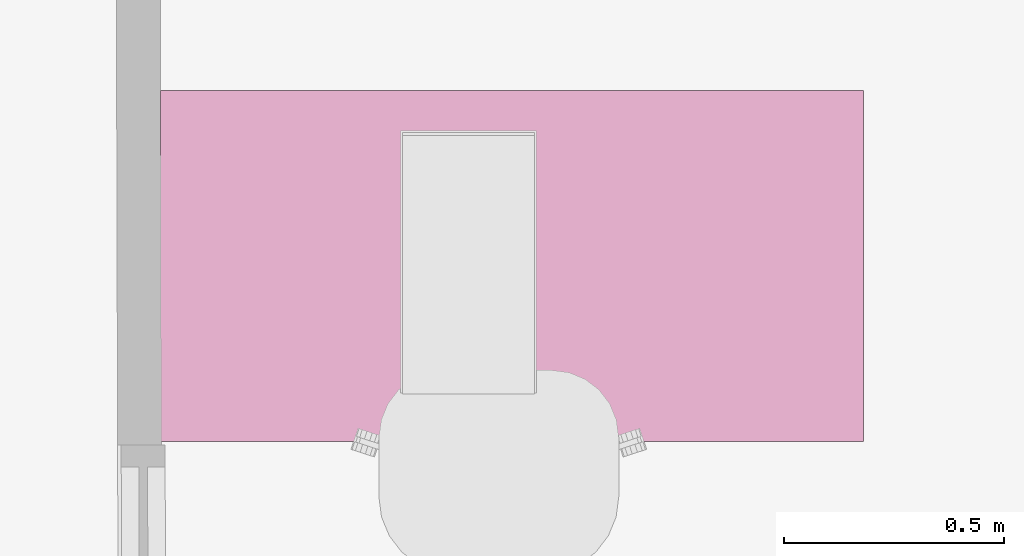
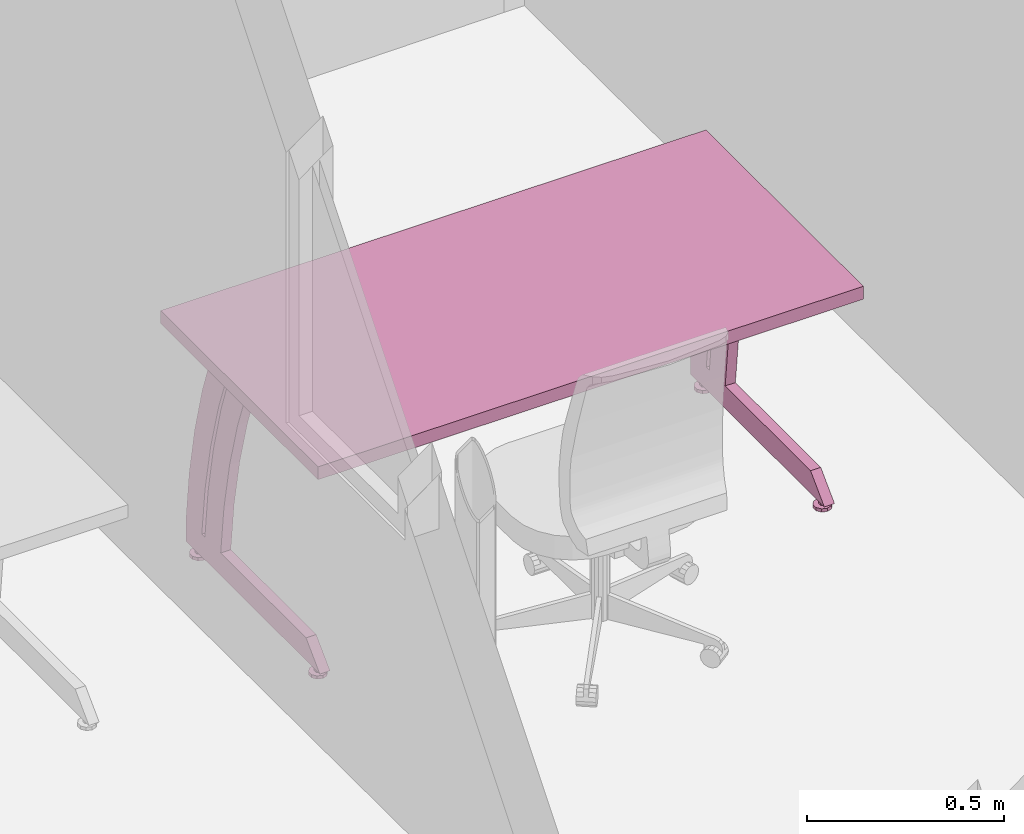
# One storey, part 87 of 128: 1 furnishing.
"""IFC2X3 building model written with IfcOpenShell, lengths in metres."""

import ifcopenshell
import ifcopenshell.guid

model = None  # the IFC model being written
_history = None  # IfcOwnerHistory: only IFC2X3 demands one
_inside = {}  # id of a spatial element -> (the spatial element, [elements in it])
_under = {}  # id of a project, library or spatial element -> (it, [spatial elements below it])
_declared = {}  # id of a project -> (the project, [libraries it declares])
_typed = {}  # id of a type object -> (the type object, [elements of that type])
_made_of = {}  # id of a material, layer set ... -> (it, [elements and type objects made of it])


def new_model(schema):
    """Start an empty IFC model of exactly this schema.

    Asked for "IFC4X3", IfcOpenShell would pick the latest addendum, in which some entities
    have other attributes; the version numbers below select the first issue.
    IFC2X3 requires an IfcOwnerHistory on every rooted entity: one is made here for all.
    """
    global model, _history
    if schema == "IFC4X3":
        model = ifcopenshell.file(schema_version=(4, 3, 0, 0))
    else:
        model = ifcopenshell.file(schema=schema)
    _inside.clear()
    _under.clear()
    _declared.clear()
    _typed.clear()
    _made_of.clear()
    _history = None
    if model.schema == "IFC2X3":
        org = make("IfcOrganization", Name="unknown")
        user = make(
            "IfcPersonAndOrganization",
            ThePerson=make("IfcPerson", FamilyName="unknown"),
            TheOrganization=org,
        )
        app = make(
            "IfcApplication",
            ApplicationDeveloper=org,
            Version="unknown",
            ApplicationFullName="unknown",
            ApplicationIdentifier="unknown",
        )
        _history = make(
            "IfcOwnerHistory",
            OwningUser=user,
            OwningApplication=app,
            ChangeAction="ADDED",
            CreationDate=0,
        )
    return model


def make(cls, **values):
    """One entity of the class cls with the attributes given. An attribute that is None is left unset."""
    return model.create_entity(
        cls, **{name: value for name, value in values.items() if value is not None}
    )


def entity(cls, *values):
    """Any entity or typed value of the class cls, its attributes in the order of the schema. None: left unset."""
    e = model.create_entity(cls)
    for i, value in enumerate(values):
        if value is not None:
            e[i] = value
    return e


def rooted(cls, **values):
    """An entity with a GlobalId (a new one), such as an element, a storey or a relation."""
    return make(cls, GlobalId=ifcopenshell.guid.new(), OwnerHistory=_history, **values)


def si_unit(unit_type, name, prefix=None):
    """IfcSIUnit, for example si_unit("LENGTHUNIT", "METRE", prefix="MILLI")."""
    return make("IfcSIUnit", UnitType=unit_type, Prefix=prefix, Name=name)


def converted_unit(unit_type, name, factor, base, dimensions=None, offset=None):
    """IfcConversionBasedUnit, such as the inch: factor (a typed value) times the base unit."""
    return make(
        "IfcConversionBasedUnit"
        if offset is None
        else "IfcConversionBasedUnitWithOffset",
        ConversionOffset=offset,
        Dimensions=None
        if dimensions is None
        else entity("IfcDimensionalExponents", *dimensions),
        UnitType=unit_type,
        Name=name,
        ConversionFactor=make(
            "IfcMeasureWithUnit", ValueComponent=factor, UnitComponent=base
        ),
    )


def derived_unit(unit_type, elements):
    """IfcDerivedUnit: a product of units, each with its exponent."""
    return make(
        "IfcDerivedUnit",
        Elements=[
            make("IfcDerivedUnitElement", Unit=unit, Exponent=power)
            for unit, power in elements
        ],
        UnitType=unit_type,
    )


def assignment(units):
    """IfcUnitAssignment: the units of a project."""
    return None if units is None else make("IfcUnitAssignment", Units=units)


def point(xyz):
    """IfcCartesianPoint."""
    return None if xyz is None else make("IfcCartesianPoint", Coordinates=xyz)


def direction(xyz):
    """IfcDirection."""
    return None if xyz is None else make("IfcDirection", DirectionRatios=xyz)


def frame(location, z_axis=None, x_axis=None):
    """IfcAxis2Placement3D, a coordinate frame: its origin and axes. An axis left out is left unset."""
    return make(
        "IfcAxis2Placement3D",
        Location=point(location),
        Axis=direction(z_axis),
        RefDirection=direction(x_axis),
    )


def origin():
    """The frame at (0, 0, 0) with its axes left unset."""
    return frame((0.0, 0.0, 0.0))


def place(relative_to, where):
    """IfcLocalPlacement: puts the frame where relative to a parent placement (None: the world)."""
    return make(
        "IfcLocalPlacement", PlacementRelTo=relative_to, RelativePlacement=where
    )


def context(
    kind, dimensions, precision=None, world=None, true_north=None, identifier=None
):
    """IfcGeometricRepresentationContext, for example the 3D "Model" context."""
    return make(
        "IfcGeometricRepresentationContext",
        ContextIdentifier=identifier,
        ContextType=kind,
        CoordinateSpaceDimension=dimensions,
        Precision=precision,
        WorldCoordinateSystem=world,
        TrueNorth=true_north,
    )


def subcontext(parent, identifier, kind, view, scale=None):
    """IfcGeometricRepresentationSubContext, for example "Body" below "Model"."""
    return make(
        "IfcGeometricRepresentationSubContext",
        ContextIdentifier=identifier,
        ContextType=kind,
        ParentContext=parent,
        TargetScale=scale,
        TargetView=view,
    )


def project(units=None, contexts=None):
    """IfcProject with its units and contexts."""
    return rooted(
        "IfcProject",
        Name="project",
        RepresentationContexts=contexts,
        UnitsInContext=assignment(units),
    )


def spatial(cls, under=None, at=None, **own):
    """A site, building, storey or space (cls), placed at a placement, below another one or the project."""
    s = rooted(cls, ObjectPlacement=at, **own)
    if under is not None:
        _under.setdefault(under.id(), (under, []))[1].append(s)
    return s


def faces_of(points, faces, orient=None, outer=None):
    """IfcFace entities. A face is a list of loops; a loop is a list of indices into points, from 0.

    orient and outer hold one flag for each loop. By default every Orientation is true, the
    first loop of a face is its IfcFaceOuterBound and the others are IfcFaceBound.
    """
    made = []
    for i, loops in enumerate(faces):
        bounds = []
        for j, loop in enumerate(loops):
            is_outer = j == 0 if outer is None else outer[i][j]
            bounds.append(
                make(
                    "IfcFaceOuterBound" if is_outer else "IfcFaceBound",
                    Bound=make("IfcPolyLoop", Polygon=[points[k] for k in loop]),
                    Orientation=True if orient is None else orient[i][j],
                )
            )
        made.append(make("IfcFace", Bounds=bounds))
    return made


def faceted_brep(points, faces, orient=None, outer=None, voids=None):
    """IfcFacetedBrep: a solid bounded by flat faces; with voids (closed shells), ...WithVoids."""
    shared = [point(p) for p in points]
    hull = make("IfcClosedShell", CfsFaces=faces_of(shared, faces, orient, outer))
    if voids is None:
        return make("IfcFacetedBrep", Outer=hull)
    return make(
        "IfcFacetedBrepWithVoids",
        Outer=hull,
        Voids=[
            make(cls, CfsFaces=faces_of(shared, fs, o, b)) for cls, fs, o, b in voids
        ],
    )


def shape(context_of_items, identifier, shape_type, items):
    """IfcShapeRepresentation: the items that make up one representation, for example the "Body"."""
    return make(
        "IfcShapeRepresentation",
        ContextOfItems=context_of_items,
        RepresentationIdentifier=identifier,
        RepresentationType=shape_type,
        Items=items,
    )


def source(mapping_origin, context_of_items, identifier, shape_type, items):
    """IfcRepresentationMap: a shape defined once, which mapped items show again and again."""
    return make(
        "IfcRepresentationMap",
        MappingOrigin=mapping_origin,
        MappedRepresentation=shape(context_of_items, identifier, shape_type, items),
    )


def transform(
    local_origin,
    x_axis=None,
    y_axis=None,
    z_axis=None,
    scale=None,
    scale2=None,
    scale3=None,
    uniform=True,
):
    """IfcCartesianTransformationOperator3D, or its non-uniform kind. x_axis, y_axis, z_axis: its Axis1, 2, 3."""
    if uniform:
        return make(
            "IfcCartesianTransformationOperator3D",
            Axis1=direction(x_axis),
            Axis2=direction(y_axis),
            LocalOrigin=point(local_origin),
            Scale=scale,
            Axis3=direction(z_axis),
        )
    return make(
        "IfcCartesianTransformationOperator3DnonUniform",
        Axis1=direction(x_axis),
        Axis2=direction(y_axis),
        LocalOrigin=point(local_origin),
        Scale=scale,
        Axis3=direction(z_axis),
        Scale2=scale2,
        Scale3=scale3,
    )


def mapped(mapping_source, mapping_target):
    """IfcMappedItem: shows the shape of a source again, moved by a transform."""
    return make(
        "IfcMappedItem", MappingSource=mapping_source, MappingTarget=mapping_target
    )


def material(Name=None, Category=None):
    """IfcMaterial."""
    return make("IfcMaterial", Name=Name, Category=Category)


def made_of(thing, what):
    """Note that an element or type object is made of a material, layer set ...; save() writes the relation."""
    if what is not None:
        _made_of.setdefault(what.id(), (what, []))[1].append(thing)
    return thing


def type_object(cls, material=None, **own):
    """A type object (cls), such as IfcWallType, which elements share."""
    return made_of(rooted(cls, **own), material)


def type_shapes(of_type, sources):
    """Give a type object the sources (RepresentationMaps) that its elements show as mapped items."""
    of_type.RepresentationMaps = sources


def element(
    cls,
    number,
    at=None,
    inside=None,
    cuts=None,
    type_object=None,
    material=None,
    context=None,
    identifier="Body",
    shape_type=None,
    held_by="IfcProductDefinitionShape",
    body=None,
    shapes=None,
    **own,
):
    """One element of the class cls, such as IfcWall. Its Tag is "e" and its number.

    at: its placement. inside: the storey or other place that contains it. cuts: it is an
    opening in that element (IfcRelVoidsElement). A single representation is given by context,
    identifier, shape_type and body (its items); several are given by shapes. held_by: the class
    of the entity that holds the representations. save() writes the other relations.
    """
    e = rooted(cls, Tag="e%d" % number, ObjectPlacement=at, **own)
    if body is not None:
        shapes = [shape(context, identifier, shape_type, body)]
    if shapes is not None:
        e.Representation = make(held_by, Representations=shapes)
    if inside is not None:
        _inside.setdefault(inside.id(), (inside, []))[1].append(e)
    if cuts is not None:
        rooted(
            "IfcRelVoidsElement", RelatingBuildingElement=cuts, RelatedOpeningElement=e
        )
    if type_object is not None:
        _typed.setdefault(type_object.id(), (type_object, []))[1].append(e)
    return made_of(e, material)


def aggregate(whole, parts):
    """IfcRelAggregates: a whole, such as a stair, and the parts it consists of."""
    return rooted("IfcRelAggregates", RelatingObject=whole, RelatedObjects=parts)


def save(model, path):
    """Write the relations noted so far, then the file.

    IfcRelAggregates (storeys below a building ...), IfcRelContainedInSpatialStructure (elements
    in a storey), IfcRelDefinesByType, IfcRelAssociatesMaterial and IfcRelDeclares: one each for
    every whole, place, type object, material and project.
    """
    for whole, parts in _under.values():
        aggregate(whole, parts)
    for where, things in _inside.values():
        rooted(
            "IfcRelContainedInSpatialStructure",
            RelatedElements=things,
            RelatingStructure=where,
        )
    for kind, things in _typed.values():
        rooted("IfcRelDefinesByType", RelatedObjects=things, RelatingType=kind)
    for what, things in _made_of.values():
        rooted("IfcRelAssociatesMaterial", RelatedObjects=things, RelatingMaterial=what)
    for by, libraries in _declared.values():
        rooted("IfcRelDeclares", RelatingContext=by, RelatedDefinitions=libraries)
    model.write(path)


model = new_model("IFC2X3")

# Units and contexts
model_context = context("Model", 3, precision=1e-05, world=origin(), true_north=direction((6.123031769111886e-17, 1.0)))
body_context = subcontext(model_context, "Body", "Model", "MODEL_VIEW")
ifc_project = project(units=[si_unit("LENGTHUNIT", "METRE"), si_unit("AREAUNIT", "SQUARE_METRE"), converted_unit("PLANEANGLEUNIT", "DEGREE", entity("IfcPlaneAngleMeasure", 0.017453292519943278), si_unit("PLANEANGLEUNIT", "RADIAN"), dimensions=[0, 0, 0, 0, 0, 0, 0]), derived_unit("THERMALTRANSMITTANCEUNIT", [(si_unit("MASSUNIT", "GRAM", prefix="KILO"), 1), (si_unit("THERMODYNAMICTEMPERATUREUNIT", "KELVIN"), -1), (si_unit("TIMEUNIT", "SECOND"), -3)])], contexts=[model_context])

# Site, building, storey
site_placement = place(None, origin())
site = spatial("IfcSite", under=ifc_project, at=site_placement, Name="Default", CompositionType="ELEMENT")
building_placement = place(site_placement, origin())
building = spatial("IfcBuilding", under=site, at=building_placement, CompositionType="ELEMENT")
storey_placement = place(building_placement, origin())
storey = spatial("IfcBuildingStorey", under=building, at=storey_placement, Name="00_RDC CAF", CompositionType="ELEMENT", Elevation=2.4982504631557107e-13)

# Furnishing
ifc_material = material(Name="ARC - Mo - Blanc")
furniture_type = type_object("IfcFurnitureType", Name="Mo_Bureau:Mo_Bureau_1600x800mm", AssemblyPlace="NOTDEFINED", material=ifc_material)
shared_shape = source(origin(), body_context, "Body", "Brep", [
    faceted_brep([(0.05999999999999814, -0.6962325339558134, 0.0), (0.03622358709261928, -0.6885071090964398, 0.0), (0.04076447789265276, -0.6822571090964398, 0.0), (0.04530536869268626, -0.6760071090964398, 0.0), (0.05265268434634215, -0.6736198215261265, 0.0), (0.059999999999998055, -0.6712325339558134, 0.0), (0.06734731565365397, -0.6736198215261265, 0.0), (0.03622358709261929, -0.6962325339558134, 0.0), (0.03622358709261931, -0.7039579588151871, 0.0), (0.04076447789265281, -0.7102079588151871, 0.0), (0.045305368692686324, -0.7164579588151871, 0.0), (0.05265268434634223, -0.7188452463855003, 0.0), (0.05999999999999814, -0.7212325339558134, 0.0), (0.07469463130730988, -0.6760071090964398, 0.0), (0.07923552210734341, -0.6822571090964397, 0.0), (0.08377641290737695, -0.6885071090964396, 0.0), (0.08377641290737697, -0.6962325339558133, 0.0), (0.0673473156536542, -0.7188452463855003, 0.0), (0.07469463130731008, -0.716457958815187, 0.0), (0.07923552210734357, -0.7102079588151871, 0.0), (0.08377641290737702, -0.703957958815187, 0.0), (0.05999999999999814, -0.6962325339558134, 0.024999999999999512), (0.0599999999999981, -0.6862325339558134, 0.024999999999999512), (0.05133974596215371, -0.6912325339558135, 0.024999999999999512), (0.05133974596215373, -0.7012325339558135, 0.024999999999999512), (0.05999999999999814, -0.7062325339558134, 0.024999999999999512), (0.06866025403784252, -0.6912325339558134, 0.024999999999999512), (0.06866025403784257, -0.7012325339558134, 0.024999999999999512), (0.05133974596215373, -0.7012325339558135, 0.010000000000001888), (0.05999999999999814, -0.7062325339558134, 0.010000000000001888), (0.05133974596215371, -0.6912325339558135, 0.010000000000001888), (0.05999999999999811, -0.6862325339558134, 0.010000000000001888), (0.06866025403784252, -0.6912325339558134, 0.010000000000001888), (0.06866025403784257, -0.7012325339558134, 0.010000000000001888), (0.05999999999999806, -0.6712325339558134, 0.010000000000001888), (0.0555460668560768, -0.6726797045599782, 0.010000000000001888), (0.051092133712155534, -0.6741268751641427, 0.010000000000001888), (0.04530536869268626, -0.6760071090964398, 0.010000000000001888), (0.06734731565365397, -0.6736198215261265, 0.010000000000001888), (0.07469463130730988, -0.6760071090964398, 0.010000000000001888), (0.07923552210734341, -0.6822571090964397, 0.010000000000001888), (0.08377641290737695, -0.6885071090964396, 0.010000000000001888), (0.08377641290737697, -0.6962325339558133, 0.010000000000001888), (0.08377641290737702, -0.703957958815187, 0.010000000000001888), (0.07923552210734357, -0.7102079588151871, 0.010000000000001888), (0.07469463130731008, -0.716457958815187, 0.010000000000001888), (0.06890786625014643, -0.7183381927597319, 0.010000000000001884), (0.06445393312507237, -0.7197853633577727, 0.010000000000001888), (0.05999999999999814, -0.7212325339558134, 0.010000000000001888), (0.05265268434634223, -0.7188452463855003, 0.010000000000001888), (0.045305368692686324, -0.7164579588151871, 0.010000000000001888), (0.03622358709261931, -0.7039579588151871, 0.010000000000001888), (0.04076447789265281, -0.7102079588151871, 0.010000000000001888), (0.04076447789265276, -0.6822571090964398, 0.010000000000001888), (0.03622358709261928, -0.6885071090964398, 0.010000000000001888), (0.03622358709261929, -0.6962325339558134, 0.010000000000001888)], [[[0, 1, 2]], [[0, 2, 3]], [[0, 3, 4]], [[0, 4, 5]], [[0, 5, 6]], [[0, 7, 1]], [[0, 8, 7]], [[0, 9, 8]], [[0, 10, 9]], [[0, 11, 10]], [[0, 12, 11]], [[0, 6, 13]], [[0, 13, 14]], [[0, 14, 15]], [[0, 15, 16]], [[0, 17, 12]], [[0, 18, 17]], [[0, 19, 18]], [[0, 20, 19]], [[0, 16, 20]], [[21, 22, 23]], [[23, 24, 21]], [[24, 25, 21]], [[21, 26, 22]], [[25, 27, 21]], [[26, 21, 27]], [[25, 24, 28, 29]], [[24, 23, 30, 28]], [[23, 22, 31, 30]], [[22, 26, 32, 31]], [[26, 27, 33, 32]], [[27, 25, 29, 33]], [[31, 34, 35]], [[31, 35, 36]], [[31, 36, 37]], [[31, 37, 30]], [[31, 38, 34]], [[31, 39, 38]], [[32, 39, 31]], [[32, 40, 39]], [[32, 41, 40]], [[32, 42, 41]], [[32, 43, 42]], [[32, 33, 43]], [[33, 44, 43]], [[33, 45, 44]], [[33, 29, 45]], [[29, 46, 45]], [[29, 47, 46]], [[29, 48, 47]], [[29, 49, 48]], [[29, 50, 49]], [[29, 28, 50]], [[30, 51, 28]], [[28, 51, 52]], [[28, 52, 50]], [[30, 37, 53]], [[30, 53, 54]], [[30, 54, 55]], [[30, 55, 51]], [[11, 12, 48, 49, 50, 10]], [[8, 9, 10, 50, 52, 51]], [[7, 8, 51, 55, 54, 1]], [[3, 37, 36, 35, 34, 5, 4]], [[54, 53, 37, 3, 2, 1]], [[6, 5, 34, 38, 39, 13]], [[15, 14, 13, 39, 40, 41]], [[16, 15, 41, 42, 43, 20]], [[18, 45, 46, 47, 48, 12, 17]], [[43, 44, 45, 18, 19, 20]]]),
    faceted_brep([(0.05999999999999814, -0.09132706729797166, 0.0), (0.03622358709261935, -0.08360164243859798, 0.0), (0.04076447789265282, -0.07735164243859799, 0.0), (0.0453053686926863, -0.07110164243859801, 0.0), (0.05265268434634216, -0.06871435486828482, 0.0), (0.059999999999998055, -0.06632706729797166, 0.0), (0.06734731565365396, -0.06871435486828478, 0.0), (0.03622358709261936, -0.09132706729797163, 0.0), (0.03622358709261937, -0.09905249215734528, 0.0), (0.04076447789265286, -0.10530249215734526, 0.0), (0.04530536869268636, -0.11155249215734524, 0.0), (0.05265268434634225, -0.11393977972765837, 0.0), (0.05999999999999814, -0.11632706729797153, 0.0), (0.07469463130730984, -0.0711016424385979, 0.0), (0.07923552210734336, -0.07735164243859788, 0.0), (0.08377641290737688, -0.08360164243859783, 0.0), (0.0837764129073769, -0.09132706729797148, 0.0), (0.06734731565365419, -0.11393977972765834, 0.0), (0.07469463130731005, -0.11155249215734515, 0.0), (0.07923552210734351, -0.10530249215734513, 0.0), (0.08377641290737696, -0.09905249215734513, 0.0), (0.05999999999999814, -0.09132706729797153, 0.024999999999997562), (0.0599999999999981, -0.08132706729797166, 0.024999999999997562), (0.05133974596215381, -0.08632706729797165, 0.024999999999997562), (0.05133974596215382, -0.09632706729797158, 0.024999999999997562), (0.05999999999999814, -0.10132706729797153, 0.024999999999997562), (0.06866025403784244, -0.0863270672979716, 0.024999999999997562), (0.06866025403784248, -0.09632706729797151, 0.024999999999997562), (0.05133974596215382, -0.09632706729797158, 0.009999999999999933), (0.05999999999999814, -0.10132706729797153, 0.009999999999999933), (0.05133974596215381, -0.08632706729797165, 0.009999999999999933), (0.05999999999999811, -0.08132706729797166, 0.009999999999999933), (0.06866025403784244, -0.0863270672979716, 0.009999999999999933), (0.06866025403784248, -0.09632706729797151, 0.009999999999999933), (0.05999999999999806, -0.06632706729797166, 0.009999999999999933), (0.055546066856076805, -0.06777423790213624, 0.00999999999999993), (0.051092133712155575, -0.06922140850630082, 0.00999999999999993), (0.0453053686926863, -0.07110164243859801, 0.009999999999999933), (0.06734731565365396, -0.06871435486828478, 0.00999999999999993), (0.07469463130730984, -0.0711016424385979, 0.009999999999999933), (0.07923552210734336, -0.07735164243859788, 0.00999999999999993), (0.08377641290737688, -0.08360164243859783, 0.009999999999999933), (0.0837764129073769, -0.09132706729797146, 0.00999999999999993), (0.08377641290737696, -0.09905249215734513, 0.009999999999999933), (0.07923552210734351, -0.10530249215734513, 0.00999999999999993), (0.07469463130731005, -0.11155249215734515, 0.009999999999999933), (0.0689078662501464, -0.11343272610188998, 0.00999999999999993), (0.06445393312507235, -0.11487989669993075, 0.00999999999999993), (0.05999999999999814, -0.11632706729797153, 0.009999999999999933), (0.05265268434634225, -0.11393977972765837, 0.00999999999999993), (0.04530536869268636, -0.11155249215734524, 0.009999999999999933), (0.03622358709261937, -0.09905249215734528, 0.009999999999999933), (0.04076447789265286, -0.10530249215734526, 0.00999999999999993), (0.04076447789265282, -0.07735164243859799, 0.00999999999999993), (0.03622358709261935, -0.08360164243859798, 0.009999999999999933), (0.03622358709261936, -0.09132706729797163, 0.00999999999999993)], [[[0, 1, 2]], [[0, 2, 3]], [[0, 3, 4]], [[0, 4, 5]], [[0, 5, 6]], [[0, 7, 1]], [[0, 8, 7]], [[0, 9, 8]], [[0, 10, 9]], [[0, 11, 10]], [[0, 12, 11]], [[0, 6, 13]], [[0, 13, 14]], [[0, 14, 15]], [[0, 15, 16]], [[0, 17, 12]], [[0, 18, 17]], [[0, 19, 18]], [[0, 20, 19]], [[0, 16, 20]], [[21, 22, 23]], [[23, 24, 21]], [[24, 25, 21]], [[21, 26, 22]], [[25, 27, 21]], [[26, 21, 27]], [[25, 24, 28, 29]], [[24, 23, 30, 28]], [[23, 22, 31, 30]], [[22, 26, 32, 31]], [[26, 27, 33, 32]], [[27, 25, 29, 33]], [[31, 34, 35]], [[31, 35, 36]], [[31, 36, 37]], [[31, 37, 30]], [[31, 38, 34]], [[31, 39, 38]], [[32, 39, 31]], [[32, 40, 39]], [[32, 41, 40]], [[32, 42, 41]], [[32, 43, 42]], [[32, 33, 43]], [[33, 44, 43]], [[33, 45, 44]], [[33, 29, 45]], [[29, 46, 45]], [[29, 47, 46]], [[29, 48, 47]], [[29, 49, 48]], [[29, 50, 49]], [[29, 28, 50]], [[30, 51, 28]], [[28, 51, 52]], [[28, 52, 50]], [[30, 37, 53]], [[30, 53, 54]], [[30, 54, 55]], [[30, 55, 51]], [[11, 12, 48, 49, 50, 10]], [[8, 9, 10, 50, 52, 51]], [[7, 8, 51, 55, 54, 1]], [[3, 37, 36, 35, 34, 5, 4]], [[54, 53, 37, 3, 2, 1]], [[6, 5, 34, 38, 39, 13]], [[15, 14, 13, 39, 40, 41]], [[16, 15, 41, 42, 43, 20]], [[18, 45, 46, 47, 48, 12, 17]], [[43, 44, 45, 18, 19, 20]]]),
    faceted_brep([(0.04499999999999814, -0.22742160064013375, 0.09500000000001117), (0.04499999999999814, -0.24409269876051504, 0.24614112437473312), (0.04499999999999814, -0.2727144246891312, 0.3954808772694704), (0.04499999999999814, -0.313105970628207, 0.542075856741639), (0.04499999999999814, -0.36501217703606, 0.684999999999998), (0.04499999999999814, -0.27887211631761, 0.6849999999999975), (0.04499999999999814, -0.22919246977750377, 0.5416912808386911), (0.04499999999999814, -0.19055436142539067, 0.39501969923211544), (0.04499999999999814, -0.1631815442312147, 0.24583462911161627), (0.04499999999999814, -0.14723253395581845, 0.09500000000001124), (0.07499999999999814, -0.3650121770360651, 0.6850000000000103), (0.07499999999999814, -0.313105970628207, 0.542075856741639), (0.07499999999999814, -0.2727144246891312, 0.3954808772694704), (0.07499999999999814, -0.24409269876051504, 0.24614112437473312), (0.07499999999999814, -0.22742160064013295, 0.09499999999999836), (0.07499999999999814, -0.14723253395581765, 0.09499999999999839), (0.07499999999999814, -0.1631815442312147, 0.24583462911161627), (0.07499999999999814, -0.19055436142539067, 0.39501969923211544), (0.07499999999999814, -0.22919246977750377, 0.5416912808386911), (0.07499999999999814, -0.2788721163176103, 0.684999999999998)], [[[0, 1, 2, 3, 4, 5, 6, 7, 8, 9]], [[10, 11, 12, 13, 14, 15, 16, 17, 18, 19]], [[10, 19, 5, 4]], [[3, 11, 10, 4]], [[2, 12, 11, 3]], [[0, 14, 13, 1]], [[12, 2, 1, 13]], [[15, 14, 0, 9]], [[8, 7, 17, 16]], [[15, 9, 8, 16]], [[6, 5, 19, 18]], [[6, 18, 17, 7]]]),
    faceted_brep([(0.04499999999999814, -0.1314216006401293, 0.09500000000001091), (0.04499999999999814, -0.1480926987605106, 0.24614112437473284), (0.04499999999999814, -0.17671442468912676, 0.3954808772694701), (0.04499999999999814, -0.21710597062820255, 0.5420758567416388), (0.04499999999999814, -0.2690121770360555, 0.6849999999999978), (0.04499999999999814, -0.18287211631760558, 0.6849999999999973), (0.04499999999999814, -0.13319246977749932, 0.5416912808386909), (0.04499999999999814, -0.09455436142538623, 0.39501969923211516), (0.04499999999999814, -0.06718154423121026, 0.24583462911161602), (0.04499999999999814, -0.05123253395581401, 0.09500000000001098), (0.07499999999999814, -0.2690121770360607, 0.6850000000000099), (0.07499999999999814, -0.21710597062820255, 0.5420758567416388), (0.07499999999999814, -0.17671442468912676, 0.3954808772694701), (0.07499999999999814, -0.1480926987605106, 0.24614112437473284), (0.07499999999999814, -0.1314216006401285, 0.09499999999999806), (0.07499999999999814, -0.051232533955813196, 0.09499999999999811), (0.07499999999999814, -0.06718154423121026, 0.24583462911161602), (0.07499999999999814, -0.09455436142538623, 0.39501969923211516), (0.07499999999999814, -0.13319246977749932, 0.5416912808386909), (0.07499999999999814, -0.18287211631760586, 0.6849999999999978)], [[[0, 1, 2, 3, 4, 5, 6, 7, 8, 9]], [[10, 11, 12, 13, 14, 15, 16, 17, 18, 19]], [[10, 19, 5, 4]], [[3, 11, 10, 4]], [[2, 12, 11, 3]], [[0, 14, 13, 1]], [[12, 2, 1, 13]], [[15, 14, 0, 9]], [[8, 7, 17, 16]], [[15, 9, 8, 16]], [[6, 5, 19, 18]], [[6, 18, 17, 7]]]),
    faceted_brep([(0.04499999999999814, -0.05123253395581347, 0.024999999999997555), (0.04499999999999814, -0.7312325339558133, 0.024999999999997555), (0.04499999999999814, -0.6612325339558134, 0.09499999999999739), (0.04499999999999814, -0.05123253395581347, 0.09499999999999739), (0.07499999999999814, -0.05123253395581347, 0.024999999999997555), (0.07499999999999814, -0.05123253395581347, 0.09499999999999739), (0.07499999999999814, -0.6612325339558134, 0.09499999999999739), (0.07499999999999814, -0.7312325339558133, 0.024999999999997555)], [[[0, 1, 2, 3]], [[4, 5, 6, 7]], [[5, 4, 0, 3]], [[6, 5, 3, 2]], [[4, 7, 1, 0]], [[7, 6, 2, 1]]]),
    faceted_brep([(1.5399999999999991, -0.6962325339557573, 0.0), (1.5162235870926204, -0.6885071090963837, 0.0), (1.5207644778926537, -0.6822571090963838, 0.0), (1.5253053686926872, -0.6760071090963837, 0.0), (1.532652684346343, -0.6736198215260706, 0.0), (1.5399999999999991, -0.6712325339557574, 0.0), (1.547347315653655, -0.6736198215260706, 0.0), (1.5162235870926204, -0.6962325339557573, 0.0), (1.5162235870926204, -0.7039579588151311, 0.0), (1.5207644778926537, -0.710207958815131, 0.0), (1.5253053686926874, -0.7164579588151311, 0.0), (1.5326526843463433, -0.7188452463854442, 0.0), (1.5399999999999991, -0.7212325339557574, 0.0), (1.554694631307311, -0.6760071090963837, 0.0), (1.5592355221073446, -0.6822571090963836, 0.0), (1.563776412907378, -0.6885071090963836, 0.0), (1.563776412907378, -0.6962325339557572, 0.0), (1.5473473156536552, -0.7188452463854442, 0.0), (1.5546946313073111, -0.716457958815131, 0.0), (1.5592355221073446, -0.710207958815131, 0.0), (1.563776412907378, -0.7039579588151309, 0.0), (1.5399999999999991, -0.6962325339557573, 0.024999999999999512), (1.5399999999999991, -0.6862325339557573, 0.024999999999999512), (1.5313397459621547, -0.6912325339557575, 0.024999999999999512), (1.5313397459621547, -0.7012325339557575, 0.024999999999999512), (1.5399999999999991, -0.7062325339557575, 0.024999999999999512), (1.5486602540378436, -0.6912325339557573, 0.024999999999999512), (1.5486602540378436, -0.7012325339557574, 0.024999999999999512), (1.5313397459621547, -0.7012325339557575, 0.010000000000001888), (1.5399999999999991, -0.7062325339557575, 0.010000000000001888), (1.5313397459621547, -0.6912325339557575, 0.010000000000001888), (1.5399999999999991, -0.6862325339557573, 0.010000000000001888), (1.5486602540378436, -0.6912325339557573, 0.010000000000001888), (1.5486602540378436, -0.7012325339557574, 0.010000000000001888), (1.5399999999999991, -0.6712325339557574, 0.010000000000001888), (1.5355460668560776, -0.672679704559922, 0.010000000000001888), (1.5310921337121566, -0.6741268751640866, 0.010000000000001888), (1.5253053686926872, -0.6760071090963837, 0.010000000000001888), (1.547347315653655, -0.6736198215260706, 0.010000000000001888), (1.554694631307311, -0.6760071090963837, 0.010000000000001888), (1.5592355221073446, -0.6822571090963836, 0.010000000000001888), (1.563776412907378, -0.6885071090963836, 0.010000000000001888), (1.563776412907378, -0.6962325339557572, 0.010000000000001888), (1.563776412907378, -0.7039579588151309, 0.010000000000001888), (1.5592355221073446, -0.710207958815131, 0.010000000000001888), (1.5546946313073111, -0.716457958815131, 0.010000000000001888), (1.5489078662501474, -0.7183381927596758, 0.010000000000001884), (1.5444539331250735, -0.7197853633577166, 0.010000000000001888), (1.5399999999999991, -0.7212325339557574, 0.010000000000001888), (1.5326526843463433, -0.7188452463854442, 0.010000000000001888), (1.5253053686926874, -0.7164579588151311, 0.010000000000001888), (1.5162235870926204, -0.7039579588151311, 0.010000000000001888), (1.5207644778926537, -0.710207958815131, 0.010000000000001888), (1.5207644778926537, -0.6822571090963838, 0.010000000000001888), (1.5162235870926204, -0.6885071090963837, 0.010000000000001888), (1.5162235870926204, -0.6962325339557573, 0.010000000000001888)], [[[0, 1, 2]], [[0, 2, 3]], [[0, 3, 4]], [[0, 4, 5]], [[0, 5, 6]], [[0, 7, 1]], [[0, 8, 7]], [[0, 9, 8]], [[0, 10, 9]], [[0, 11, 10]], [[0, 12, 11]], [[0, 6, 13]], [[0, 13, 14]], [[0, 14, 15]], [[0, 15, 16]], [[0, 17, 12]], [[0, 18, 17]], [[0, 19, 18]], [[0, 20, 19]], [[0, 16, 20]], [[21, 22, 23]], [[23, 24, 21]], [[24, 25, 21]], [[21, 26, 22]], [[25, 27, 21]], [[26, 21, 27]], [[25, 24, 28, 29]], [[24, 23, 30, 28]], [[23, 22, 31, 30]], [[22, 26, 32, 31]], [[26, 27, 33, 32]], [[27, 25, 29, 33]], [[31, 34, 35]], [[31, 35, 36]], [[31, 36, 37]], [[31, 37, 30]], [[31, 38, 34]], [[31, 39, 38]], [[32, 39, 31]], [[32, 40, 39]], [[32, 41, 40]], [[32, 42, 41]], [[32, 43, 42]], [[32, 33, 43]], [[33, 44, 43]], [[33, 45, 44]], [[33, 29, 45]], [[29, 46, 45]], [[29, 47, 46]], [[29, 48, 47]], [[29, 49, 48]], [[29, 50, 49]], [[29, 28, 50]], [[30, 51, 28]], [[28, 51, 52]], [[28, 52, 50]], [[30, 37, 53]], [[30, 53, 54]], [[30, 54, 55]], [[30, 55, 51]], [[11, 12, 48, 49, 50, 10]], [[8, 9, 10, 50, 52, 51]], [[7, 8, 51, 55, 54, 1]], [[3, 37, 36, 35, 34, 5, 4]], [[54, 53, 37, 3, 2, 1]], [[6, 5, 34, 38, 39, 13]], [[15, 14, 13, 39, 40, 41]], [[16, 15, 41, 42, 43, 20]], [[18, 45, 46, 47, 48, 12, 17]], [[43, 44, 45, 18, 19, 20]]]),
    faceted_brep([(1.5399999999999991, -0.09132706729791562, 0.0), (1.5162235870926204, -0.08360164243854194, 0.0), (1.5207644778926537, -0.07735164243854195, 0.0), (1.5253053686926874, -0.07110164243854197, 0.0), (1.5326526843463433, -0.06871435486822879, 0.0), (1.5399999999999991, -0.06632706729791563, 0.0), (1.547347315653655, -0.06871435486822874, 0.0), (1.5162235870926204, -0.09132706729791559, 0.0), (1.5162235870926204, -0.09905249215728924, 0.0), (1.5207644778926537, -0.10530249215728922, 0.0), (1.5253053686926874, -0.1115524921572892, 0.0), (1.5326526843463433, -0.11393977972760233, 0.0), (1.5399999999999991, -0.11632706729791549, 0.0), (1.554694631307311, -0.07110164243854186, 0.0), (1.5592355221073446, -0.07735164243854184, 0.0), (1.563776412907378, -0.08360164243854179, 0.0), (1.563776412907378, -0.09132706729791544, 0.0), (1.5473473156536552, -0.1139397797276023, 0.0), (1.5546946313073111, -0.11155249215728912, 0.0), (1.5592355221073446, -0.1053024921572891, 0.0), (1.563776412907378, -0.09905249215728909, 0.0), (1.5399999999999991, -0.0913270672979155, 0.024999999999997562), (1.5399999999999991, -0.08132706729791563, 0.024999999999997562), (1.531339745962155, -0.08632706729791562, 0.024999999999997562), (1.531339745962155, -0.09632706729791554, 0.024999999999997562), (1.5399999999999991, -0.10132706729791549, 0.024999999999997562), (1.5486602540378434, -0.08632706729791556, 0.024999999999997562), (1.5486602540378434, -0.09632706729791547, 0.024999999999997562), (1.531339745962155, -0.09632706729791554, 0.009999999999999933), (1.5399999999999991, -0.10132706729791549, 0.009999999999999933), (1.531339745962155, -0.08632706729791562, 0.009999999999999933), (1.5399999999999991, -0.08132706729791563, 0.009999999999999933), (1.5486602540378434, -0.08632706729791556, 0.009999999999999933), (1.5486602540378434, -0.09632706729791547, 0.009999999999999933), (1.5399999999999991, -0.06632706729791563, 0.009999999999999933), (1.5355460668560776, -0.0677742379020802, 0.00999999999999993), (1.5310921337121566, -0.06922140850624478, 0.00999999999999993), (1.5253053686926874, -0.07110164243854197, 0.009999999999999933), (1.547347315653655, -0.06871435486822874, 0.00999999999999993), (1.554694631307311, -0.07110164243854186, 0.009999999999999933), (1.5592355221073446, -0.07735164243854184, 0.00999999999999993), (1.563776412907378, -0.08360164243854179, 0.009999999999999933), (1.563776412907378, -0.09132706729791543, 0.00999999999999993), (1.563776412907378, -0.09905249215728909, 0.009999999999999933), (1.5592355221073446, -0.1053024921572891, 0.00999999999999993), (1.5546946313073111, -0.11155249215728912, 0.009999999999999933), (1.5489078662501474, -0.11343272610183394, 0.00999999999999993), (1.5444539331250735, -0.11487989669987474, 0.00999999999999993), (1.5399999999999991, -0.11632706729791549, 0.009999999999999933), (1.5326526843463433, -0.11393977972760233, 0.00999999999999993), (1.5253053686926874, -0.1115524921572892, 0.009999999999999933), (1.5162235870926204, -0.09905249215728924, 0.009999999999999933), (1.5207644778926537, -0.10530249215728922, 0.00999999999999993), (1.5207644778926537, -0.07735164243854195, 0.00999999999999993), (1.5162235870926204, -0.08360164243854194, 0.009999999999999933), (1.5162235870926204, -0.09132706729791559, 0.00999999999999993)], [[[0, 1, 2]], [[0, 2, 3]], [[0, 3, 4]], [[0, 4, 5]], [[0, 5, 6]], [[0, 7, 1]], [[0, 8, 7]], [[0, 9, 8]], [[0, 10, 9]], [[0, 11, 10]], [[0, 12, 11]], [[0, 6, 13]], [[0, 13, 14]], [[0, 14, 15]], [[0, 15, 16]], [[0, 17, 12]], [[0, 18, 17]], [[0, 19, 18]], [[0, 20, 19]], [[0, 16, 20]], [[21, 22, 23]], [[23, 24, 21]], [[24, 25, 21]], [[21, 26, 22]], [[25, 27, 21]], [[26, 21, 27]], [[25, 24, 28, 29]], [[24, 23, 30, 28]], [[23, 22, 31, 30]], [[22, 26, 32, 31]], [[26, 27, 33, 32]], [[27, 25, 29, 33]], [[31, 34, 35]], [[31, 35, 36]], [[31, 36, 37]], [[31, 37, 30]], [[31, 38, 34]], [[31, 39, 38]], [[32, 39, 31]], [[32, 40, 39]], [[32, 41, 40]], [[32, 42, 41]], [[32, 43, 42]], [[32, 33, 43]], [[33, 44, 43]], [[33, 45, 44]], [[33, 29, 45]], [[29, 46, 45]], [[29, 47, 46]], [[29, 48, 47]], [[29, 49, 48]], [[29, 50, 49]], [[29, 28, 50]], [[30, 51, 28]], [[28, 51, 52]], [[28, 52, 50]], [[30, 37, 53]], [[30, 53, 54]], [[30, 54, 55]], [[30, 55, 51]], [[11, 12, 48, 49, 50, 10]], [[8, 9, 10, 50, 52, 51]], [[7, 8, 51, 55, 54, 1]], [[3, 37, 36, 35, 34, 5, 4]], [[54, 53, 37, 3, 2, 1]], [[6, 5, 34, 38, 39, 13]], [[15, 14, 13, 39, 40, 41]], [[16, 15, 41, 42, 43, 20]], [[18, 45, 46, 47, 48, 12, 17]], [[43, 44, 45, 18, 19, 20]]]),
    faceted_brep([(1.524999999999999, -0.22742160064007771, 0.09500000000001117), (1.524999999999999, -0.244092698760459, 0.24614112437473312), (1.524999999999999, -0.27271442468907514, 0.3954808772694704), (1.524999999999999, -0.31310597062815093, 0.542075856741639), (1.524999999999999, -0.3650121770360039, 0.684999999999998), (1.524999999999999, -0.278872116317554, 0.6849999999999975), (1.524999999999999, -0.22919246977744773, 0.5416912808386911), (1.524999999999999, -0.19055436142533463, 0.39501969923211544), (1.524999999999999, -0.16318154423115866, 0.24583462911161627), (1.524999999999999, -0.1472325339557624, 0.09500000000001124), (1.5549999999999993, -0.3650121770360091, 0.6850000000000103), (1.5549999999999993, -0.31310597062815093, 0.542075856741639), (1.5549999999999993, -0.27271442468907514, 0.3954808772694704), (1.5549999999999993, -0.244092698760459, 0.24614112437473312), (1.5549999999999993, -0.2274216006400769, 0.09499999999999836), (1.5549999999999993, -0.1472325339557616, 0.09499999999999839), (1.5549999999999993, -0.16318154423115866, 0.24583462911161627), (1.5549999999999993, -0.19055436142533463, 0.39501969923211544), (1.5549999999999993, -0.22919246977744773, 0.5416912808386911), (1.5549999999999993, -0.27887211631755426, 0.684999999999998)], [[[0, 1, 2, 3, 4, 5, 6, 7, 8, 9]], [[10, 11, 12, 13, 14, 15, 16, 17, 18, 19]], [[10, 19, 5, 4]], [[3, 11, 10, 4]], [[2, 12, 11, 3]], [[0, 14, 13, 1]], [[12, 2, 1, 13]], [[15, 14, 0, 9]], [[8, 7, 17, 16]], [[15, 9, 8, 16]], [[6, 5, 19, 18]], [[6, 18, 17, 7]]]),
    faceted_brep([(1.524999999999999, -0.13142160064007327, 0.09500000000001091), (1.524999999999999, -0.14809269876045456, 0.24614112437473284), (1.524999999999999, -0.17671442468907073, 0.3954808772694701), (1.524999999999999, -0.21710597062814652, 0.5420758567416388), (1.524999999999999, -0.2690121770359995, 0.6849999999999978), (1.524999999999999, -0.18287211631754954, 0.6849999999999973), (1.524999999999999, -0.13319246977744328, 0.5416912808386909), (1.524999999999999, -0.09455436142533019, 0.39501969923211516), (1.524999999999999, -0.06718154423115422, 0.24583462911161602), (1.524999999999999, -0.05123253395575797, 0.09500000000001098), (1.5549999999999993, -0.2690121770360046, 0.6850000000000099), (1.5549999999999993, -0.21710597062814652, 0.5420758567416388), (1.5549999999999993, -0.17671442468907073, 0.3954808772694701), (1.5549999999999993, -0.14809269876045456, 0.24614112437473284), (1.5549999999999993, -0.13142160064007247, 0.09499999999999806), (1.5549999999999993, -0.05123253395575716, 0.09499999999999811), (1.5549999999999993, -0.06718154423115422, 0.24583462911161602), (1.5549999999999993, -0.09455436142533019, 0.39501969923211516), (1.5549999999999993, -0.13319246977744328, 0.5416912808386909), (1.5549999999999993, -0.18287211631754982, 0.6849999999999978)], [[[0, 1, 2, 3, 4, 5, 6, 7, 8, 9]], [[10, 11, 12, 13, 14, 15, 16, 17, 18, 19]], [[10, 19, 5, 4]], [[3, 11, 10, 4]], [[2, 12, 11, 3]], [[0, 14, 13, 1]], [[12, 2, 1, 13]], [[15, 14, 0, 9]], [[8, 7, 17, 16]], [[15, 9, 8, 16]], [[6, 5, 19, 18]], [[6, 18, 17, 7]]]),
    faceted_brep([(1.524999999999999, -0.05123253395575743, 0.024999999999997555), (1.524999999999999, -0.7312325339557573, 0.024999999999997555), (1.524999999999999, -0.6612325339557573, 0.09499999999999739), (1.524999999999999, -0.05123253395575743, 0.09499999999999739), (1.5549999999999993, -0.05123253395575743, 0.024999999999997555), (1.5549999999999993, -0.05123253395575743, 0.09499999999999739), (1.5549999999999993, -0.6612325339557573, 0.09499999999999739), (1.5549999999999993, -0.7312325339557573, 0.024999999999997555)], [[[0, 1, 2, 3]], [[4, 5, 6, 7]], [[5, 4, 0, 3]], [[6, 5, 3, 2]], [[4, 7, 1, 0]], [[7, 6, 2, 1]]]),
    faceted_brep([(0.0, -0.7999999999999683, 0.685), (0.0, 0.0, 0.685), (1.5999999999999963, 0.0, 0.684999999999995), (1.5999999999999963, -0.7999999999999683, 0.684999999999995), (0.0, -0.7999999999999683, 0.7250000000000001), (1.5999999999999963, -0.7999999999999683, 0.7249999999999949), (1.5999999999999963, 0.0, 0.7249999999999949), (0.0, 0.0, 0.7250000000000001)], [[[0, 1, 2, 3]], [[4, 5, 6, 7]], [[5, 4, 0, 3]], [[6, 5, 3, 2]], [[7, 6, 2, 1]], [[4, 7, 1, 0]]]),
])
type_shapes(furniture_type, [shared_shape])
furnishing_placement = place(storey_placement, frame((11.217035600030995, 133.9072306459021, 0.0)))
element("IfcFurnishingElement", 1, at=furnishing_placement, inside=storey, type_object=furniture_type, material=ifc_material, Name="Mo_Bureau:Mo_Bureau_1600x800mm", ObjectType="Mo_Bureau:Mo_Bureau_1600x800mm", context=body_context, shape_type="MappedRepresentation", body=[
    mapped(shared_shape, transform((0.0, 0.0, 0.0), scale=1.0)),
])

save(model, "model.ifc")
